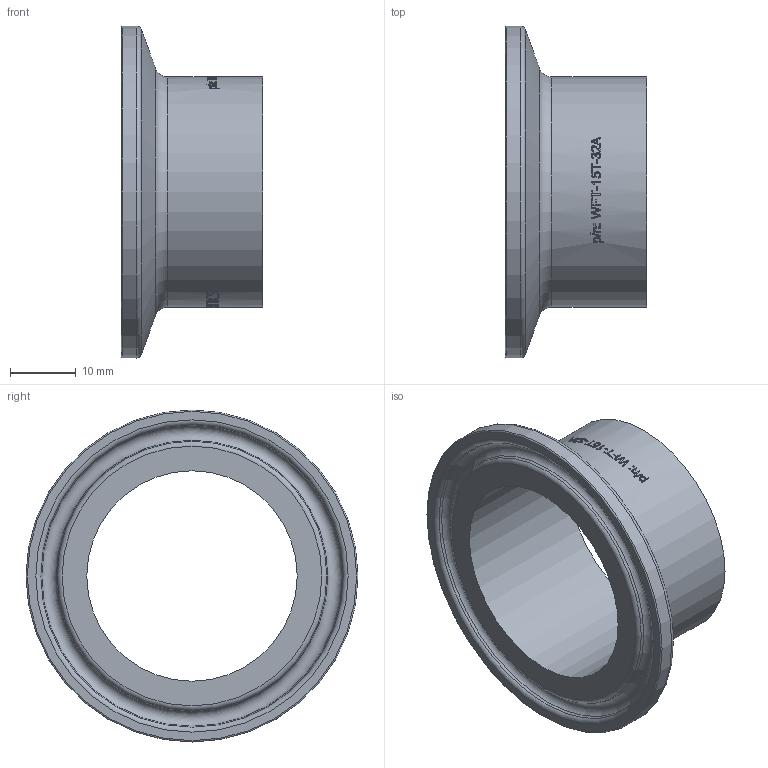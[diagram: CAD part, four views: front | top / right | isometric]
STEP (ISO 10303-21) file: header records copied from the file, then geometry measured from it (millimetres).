
FILE_DESCRIPTION(/* description */ ('Unknown'),/* implementation_level */ '2;1');
FILE_NAME(/* name */ 'WFT-15T-32A',/* time_stamp */ '2024-06-26T16:18:12-05:00',/* author */ ('Unknown'),/* organization */ ('Unknown'),/* preprocessor_version */ 'ST-DEVELOPER v16.7',/* originating_system */ 'Solid Edge',/* authorisation */ 'Unknown');
FILE_SCHEMA (('AUTOMOTIVE_DESIGN {1 0 10303 214 3 1 1}'));
Length unit declared in the file: millimetre
Products named in the file (1): WFT-15T-32A-Laser_Marking
Bounding box: 21.5 x 50.5 x 50.5 mm (x, y, z)
Volume: 7288.9 mm3; surface area: 6968.3 mm2
Topology: 1 solids, 1 shells, 262 faces, 677 edges, 450 vertices
Faces by surface type: bspline 112, plane 101, cylinder 40, torus 6, cone 3
Full cylindrical faces by diameter (mm): 32 x1, 35 x1, 50.5 x1
Entity records: 14745 total; most frequent: CARTESIAN_POINT 7278, ORIENTED_EDGE 1318, DIRECTION 826, EDGE_CURVE 659, VERTEX_POINT 445, EDGE_LOOP 310, FACE_BOUND 310, LINE 280
